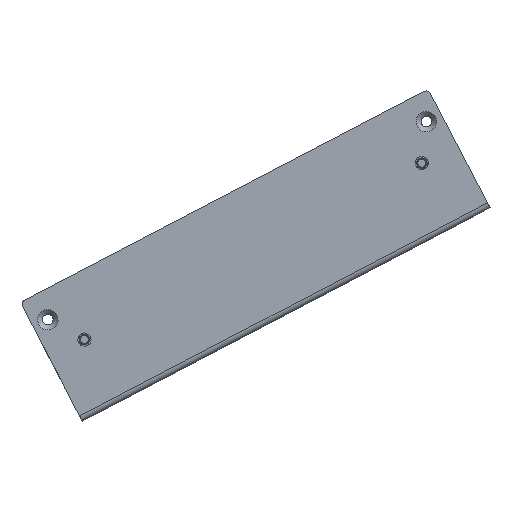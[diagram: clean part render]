
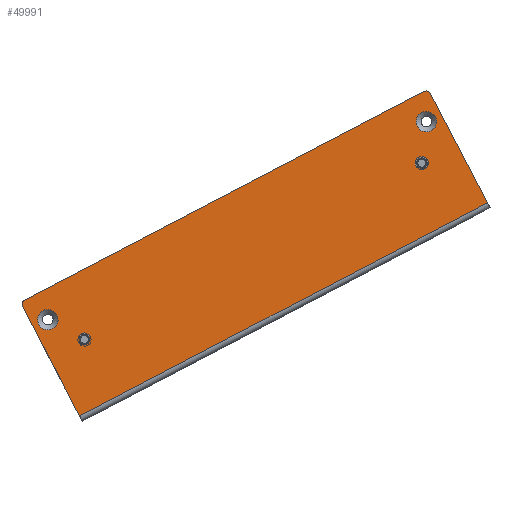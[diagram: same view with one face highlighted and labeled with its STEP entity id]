
A CAD part, front view. The second image highlights one B-rep face of the part: STEP entity #49991.
In plain terms, the highlighted planar face has unit normal (0, -1, 0).
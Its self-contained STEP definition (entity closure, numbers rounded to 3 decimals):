
#4317=FACE_BOUND($,#9430,.T.);
#4318=FACE_BOUND($,#9431,.T.);
#4319=FACE_BOUND($,#9432,.T.);
#4320=FACE_BOUND($,#9433,.T.);
#4321=FACE_BOUND($,#9434,.T.);
#4939=PLANE($,#52944);
#9430=EDGE_LOOP($,(#35288));
#9431=EDGE_LOOP($,(#35289));
#9432=EDGE_LOOP($,(#35290));
#9433=EDGE_LOOP($,(#35291,#35292,#35293,#35294,#35295,#35296));
#9434=EDGE_LOOP($,(#35297));
#12832=LINE($,#67802,#17615);
#12835=LINE($,#67814,#17618);
#12836=LINE($,#67816,#17619);
#12837=LINE($,#67818,#17620);
#17615=VECTOR($,#56307,136.7);
#17618=VECTOR($,#56318,37.4);
#17619=VECTOR($,#56319,139.7);
#17620=VECTOR($,#56320,37.4);
#22396=CIRCLE($,#52941,1.5);
#22398=CIRCLE($,#52945,3.1);
#22399=CIRCLE($,#52946,1.6);
#22400=CIRCLE($,#52947,1.6);
#22401=CIRCLE($,#52948,1.5);
#22402=CIRCLE($,#52949,3.1);
#23380=VERTEX_POINT($,#67792);
#23381=VERTEX_POINT($,#67793);
#23384=VERTEX_POINT($,#67801);
#23386=VERTEX_POINT($,#67807);
#23387=VERTEX_POINT($,#67809);
#23388=VERTEX_POINT($,#67811);
#23389=VERTEX_POINT($,#67813);
#23390=VERTEX_POINT($,#67815);
#23391=VERTEX_POINT($,#67817);
#23392=VERTEX_POINT($,#67820);
#28125=EDGE_CURVE($,#23380,#23381,#22396,.T.);
#28129=EDGE_CURVE($,#23381,#23384,#12832,.T.);
#28132=EDGE_CURVE($,#23386,#23386,#22398,.T.);
#28133=EDGE_CURVE($,#23387,#23387,#22399,.T.);
#28134=EDGE_CURVE($,#23388,#23388,#22400,.T.);
#28135=EDGE_CURVE($,#23380,#23389,#12835,.T.);
#28136=EDGE_CURVE($,#23390,#23389,#12836,.T.);
#28137=EDGE_CURVE($,#23390,#23391,#12837,.T.);
#28138=EDGE_CURVE($,#23384,#23391,#22401,.T.);
#28139=EDGE_CURVE($,#23392,#23392,#22402,.T.);
#35288=ORIENTED_EDGE($,*,*,#28132,.F.);
#35289=ORIENTED_EDGE($,*,*,#28133,.T.);
#35290=ORIENTED_EDGE($,*,*,#28134,.T.);
#35291=ORIENTED_EDGE($,*,*,#28125,.F.);
#35292=ORIENTED_EDGE($,*,*,#28135,.T.);
#35293=ORIENTED_EDGE($,*,*,#28136,.F.);
#35294=ORIENTED_EDGE($,*,*,#28137,.T.);
#35295=ORIENTED_EDGE($,*,*,#28138,.F.);
#35296=ORIENTED_EDGE($,*,*,#28129,.F.);
#35297=ORIENTED_EDGE($,*,*,#28139,.F.);
#49991=ADVANCED_FACE($,(#4317,#4318,#4319,#4320,#4321),#4939,.T.);
#52941=AXIS2_PLACEMENT_3D($,#67794,#56299,#56300);
#52944=AXIS2_PLACEMENT_3D($,#67806,#56310,#56311);
#52945=AXIS2_PLACEMENT_3D($,#67808,#56312,#56313);
#52946=AXIS2_PLACEMENT_3D($,#67810,#56314,#56315);
#52947=AXIS2_PLACEMENT_3D($,#67812,#56316,#56317);
#52948=AXIS2_PLACEMENT_3D($,#67819,#56321,#56322);
#52949=AXIS2_PLACEMENT_3D($,#67821,#56323,#56324);
#56299=DIRECTION('center_axis',(0.,1.,0.));
#56300=DIRECTION('ref_axis',(-0.707,0.,0.707));
#56307=DIRECTION($,(1.,0.,0.));
#56310=DIRECTION('center_axis',(0.,-1.,0.));
#56311=DIRECTION('ref_axis',(0.,0.,-1.));
#56312=DIRECTION('center_axis',(0.,-1.,0.));
#56313=DIRECTION('ref_axis',(-1.,0.,0.));
#56314=DIRECTION('center_axis',(0.,1.,0.));
#56315=DIRECTION('ref_axis',(1.,0.,0.));
#56316=DIRECTION('center_axis',(0.,1.,0.));
#56317=DIRECTION('ref_axis',(1.,0.,0.));
#56318=DIRECTION($,(0.,0.,-1.));
#56319=DIRECTION($,(-1.,0.,0.));
#56320=DIRECTION($,(0.,0.,1.));
#56321=DIRECTION('center_axis',(0.,1.,0.));
#56322=DIRECTION('ref_axis',(0.707,0.,0.707));
#56323=DIRECTION('center_axis',(0.,-1.,0.));
#56324=DIRECTION('ref_axis',(-1.,0.,0.));
#67792=CARTESIAN_POINT('',(0.,0.,
39.1));
#67793=CARTESIAN_POINT('',(1.5,0.,40.6));
#67794=CARTESIAN_POINT('Origin',(1.5,0.,39.1));
#67801=CARTESIAN_POINT('',(138.2,0.,40.6));
#67802=CARTESIAN_POINT($,(0.,0.,40.6));
#67806=CARTESIAN_POINT('Origin',(0.,0.,0.));
#67807=CARTESIAN_POINT('',(137.8,0.,32.1));
#67808=CARTESIAN_POINT('Origin',(134.7,0.,32.1));
#67809=CARTESIAN_POINT('',(13.65,0.,21.6));
#67810=CARTESIAN_POINT('Origin',(12.05,0.,21.6));
#67811=CARTESIAN_POINT('',(129.25,0.,21.6));
#67812=CARTESIAN_POINT('Origin',(127.65,0.,21.6));
#67813=CARTESIAN_POINT('',(0.,0.,1.7));
#67814=CARTESIAN_POINT($,(0.,0.,40.6));
#67815=CARTESIAN_POINT('',(139.7,0.,1.7));
#67816=CARTESIAN_POINT($,(0.,0.,1.7));
#67817=CARTESIAN_POINT('',(139.7,0.,39.1));
#67818=CARTESIAN_POINT($,(139.7,0.,40.6));
#67819=CARTESIAN_POINT('Origin',(138.2,0.,39.1));
#67820=CARTESIAN_POINT('',(8.1,0.,32.1));
#67821=CARTESIAN_POINT('Origin',(5.,0.,32.1));
